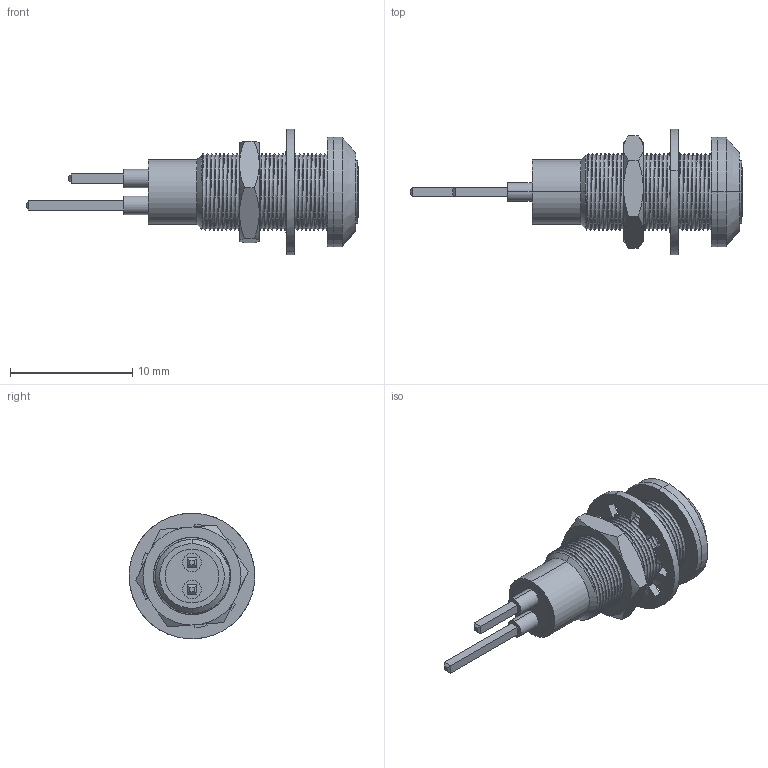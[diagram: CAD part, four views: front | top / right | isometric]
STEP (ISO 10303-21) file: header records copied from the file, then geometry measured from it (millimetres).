
FILE_DESCRIPTION (( 'STEP AP203' ), '1' );
FILE_NAME ('612 SERIES.STEP', '2016-08-04T14:51:59', ( '' ), ( '' ), 'SwSTEP 2.0', 'SolidWorks 2016', '' );
FILE_SCHEMA (( 'CONFIG_CONTROL_DESIGN' ));
Length unit declared in the file: millimetre
Products named in the file (7): COM7935_THREADED; pin connection for 612 series; 612 SERIES; Part12^612 SERIES; COM4316; COM4274; COM2014
Assembly tree (6 placements, depth 2):
  612 SERIES
    COM4316
    COM2014
    COM4274
    pin connection for 612 series
    COM7935_THREADED
    Part12^612 SERIES
Bounding box: 27.2 x 10.3 x 10.29 mm (x, y, z)
Volume: 388.8 mm3; surface area: 1295.4 mm2
Topology: 6 solids, 6 shells, 288 faces, 692 edges, 436 vertices
Faces by surface type: cylinder 125, bspline 92, plane 53, cone 18
Entity records: 25998 total; most frequent: CARTESIAN_POINT 19495, ORIENTED_EDGE 1384, DIRECTION 975, EDGE_CURVE 692, VERTEX_POINT 436, AXIS2_PLACEMENT_3D 388, EDGE_LOOP 316, FACE_OUTER_BOUND 288
